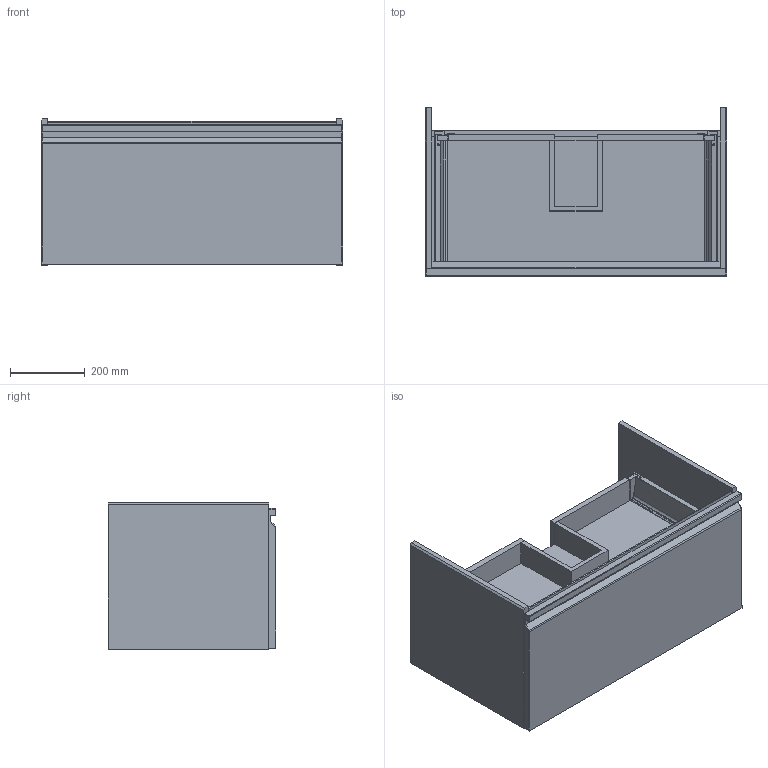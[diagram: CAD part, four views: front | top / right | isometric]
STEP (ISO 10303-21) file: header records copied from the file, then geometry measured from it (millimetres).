
FILE_DESCRIPTION(/* description */ (''),/* implementation_level */ '2;1');
FILE_NAME(/* name */ '3D7339~1',/* time_stamp */ '2018-05-14T09:17:29+02:00',/* author */ (''),/* organization */ (''),/* preprocessor_version */ 'ST-DEVELOPER v15',/* originating_system */ '',/* authorisation */ '');
FILE_SCHEMA (('AUTOMOTIVE_DESIGN'));
Length unit declared in the file: millimetre
Products named in the file (28): Document; Parte363; Parte361; Parte351; Parte349; Parte347; Parte345; Parte343; Parte341; Parte339; Parte337; Parte335; Parte333; Parte331; Parte329; Parte327; Parte325; Parte315; Parte313; Parte311; Parte309; Parte307; Parte305; Parte303; Parte301; Parte299; Parte297; Parte295
Assembly tree (27 placements, depth 2):
  Document
    Parte363
    Parte361
    Parte351
    Parte349
    Parte347
    Parte345
    Parte343
    Parte341
    Parte339
    Parte337
    Parte335
    Parte333
    Parte331
    Parte329
    Parte327
    Parte325
    Parte315
    Parte313
    Parte311
    Parte309
    Parte307
    Parte305
    Parte303
    Parte301
    Parte299
    Parte297
    Parte295
Bounding box: 809 x 450 x 392 mm (x, y, z)
Volume: 31608925 mm3; surface area: 4368769.4 mm2
Topology: 27 solids, 27 shells, 859 faces, 2359 edges, 1590 vertices
Faces by surface type: plane 612, bspline 247
Entity records: 29333 total; most frequent: CARTESIAN_POINT 13160, ORIENTED_EDGE 4710, EDGE_CURVE 2355, B_SPLINE_CURVE_WITH_KNOTS 1787, VERTEX_POINT 1590, EDGE_LOOP 967, ADVANCED_FACE 859, FACE_OUTER_BOUND 859
